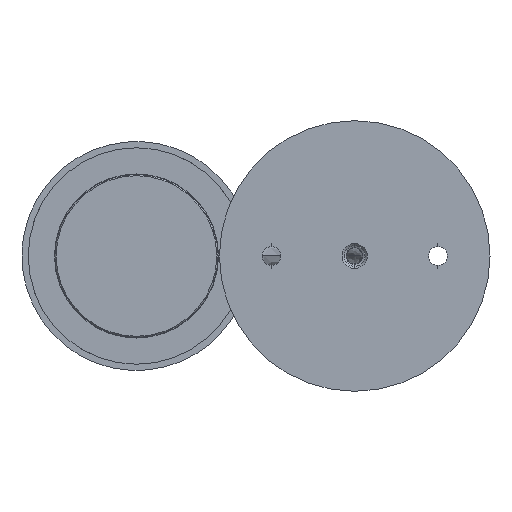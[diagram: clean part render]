
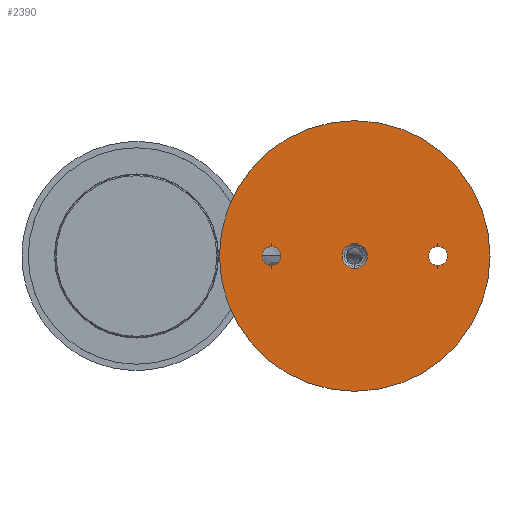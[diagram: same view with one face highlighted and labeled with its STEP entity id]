
A CAD part, front view. The second image highlights one B-rep face of the part: STEP entity #2390.
In plain terms, the highlighted planar face has unit normal (0, -1, 0).
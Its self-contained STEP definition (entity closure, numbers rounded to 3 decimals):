
#3 = VERTEX_POINT ( 'NONE', #6808 ) ;
#86 = CIRCLE ( 'NONE', #753, 3. ) ;
#89 = AXIS2_PLACEMENT_3D ( 'NONE', #6144, #1374, #397 ) ;
#180 = VERTEX_POINT ( 'NONE', #436 ) ;
#248 = DIRECTION ( 'NONE',  ( 0., 1., 0. ) ) ;
#349 = CIRCLE ( 'NONE', #5340, 32.5 ) ;
#370 = CARTESIAN_POINT ( 'NONE',  ( 0., 0., 0. ) ) ;
#378 = AXIS2_PLACEMENT_3D ( 'NONE', #2372, #248, #6077 ) ;
#389 = DIRECTION ( 'NONE',  ( 0., -1., 0. ) ) ;
#397 = DIRECTION ( 'NONE',  ( 0., 0., 1. ) ) ;
#436 = CARTESIAN_POINT ( 'NONE',  ( 0., 0., -32.5 ) ) ;
#490 = ORIENTED_EDGE ( 'NONE', *, *, #4693, .T. ) ;
#525 = CARTESIAN_POINT ( 'NONE',  ( -20., 0., 2.25 ) ) ;
#529 = CARTESIAN_POINT ( 'NONE',  ( 0., 0., 0. ) ) ;
#716 = EDGE_CURVE ( 'NONE', #5609, #5519, #2488, .T. ) ;
#753 = AXIS2_PLACEMENT_3D ( 'NONE', #2501, #5689, #1942 ) ;
#780 = VERTEX_POINT ( 'NONE', #1186 ) ;
#785 = DIRECTION ( 'NONE',  ( 0., 1., 0. ) ) ;
#803 = CARTESIAN_POINT ( 'NONE',  ( -20., 0., 0. ) ) ;
#1186 = CARTESIAN_POINT ( 'NONE',  ( 0., 0., 32.5 ) ) ;
#1265 = ORIENTED_EDGE ( 'NONE', *, *, #5481, .T. ) ;
#1319 = CARTESIAN_POINT ( 'NONE',  ( -20., 0., -2.25 ) ) ;
#1352 = VERTEX_POINT ( 'NONE', #3204 ) ;
#1374 = DIRECTION ( 'NONE',  ( 0., 1., 0. ) ) ;
#1520 = CIRCLE ( 'NONE', #2470, 2.25 ) ;
#1859 = FACE_BOUND ( 'NONE', #5093, .T. ) ;
#1891 = EDGE_CURVE ( 'NONE', #3333, #2664, #6906, .T. ) ;
#1942 = DIRECTION ( 'NONE',  ( 0., 0., -1. ) ) ;
#2007 = DIRECTION ( 'NONE',  ( 0., 0., -1. ) ) ;
#2117 = EDGE_CURVE ( 'NONE', #5519, #5609, #86, .T. ) ;
#2235 = AXIS2_PLACEMENT_3D ( 'NONE', #6492, #4386, #4957 ) ;
#2272 = FACE_BOUND ( 'NONE', #4347, .T. ) ;
#2372 = CARTESIAN_POINT ( 'NONE',  ( -20., 0., 0. ) ) ;
#2390 = ADVANCED_FACE ( 'NONE', ( #1859, #2597, #2272, #4106 ), #6197, .T. ) ;
#2422 = EDGE_LOOP ( 'NONE', ( #490, #6752 ) ) ;
#2459 = EDGE_CURVE ( 'NONE', #2664, #3333, #4675, .T. ) ;
#2470 = AXIS2_PLACEMENT_3D ( 'NONE', #5732, #6783, #6760 ) ;
#2488 = CIRCLE ( 'NONE', #2235, 3. ) ;
#2493 = ORIENTED_EDGE ( 'NONE', *, *, #2117, .T. ) ;
#2501 = CARTESIAN_POINT ( 'NONE',  ( 0., 0., 0. ) ) ;
#2597 = FACE_BOUND ( 'NONE', #6336, .T. ) ;
#2664 = VERTEX_POINT ( 'NONE', #1319 ) ;
#3067 = CARTESIAN_POINT ( 'NONE',  ( 0., 0., -3. ) ) ;
#3204 = CARTESIAN_POINT ( 'NONE',  ( 20., 0., -2.25 ) ) ;
#3256 = AXIS2_PLACEMENT_3D ( 'NONE', #803, #785, #5572 ) ;
#3333 = VERTEX_POINT ( 'NONE', #525 ) ;
#3593 = ORIENTED_EDGE ( 'NONE', *, *, #2459, .T. ) ;
#3962 = DIRECTION ( 'NONE',  ( 0., 0., -1. ) ) ;
#4106 = FACE_OUTER_BOUND ( 'NONE', #2422, .T. ) ;
#4347 = EDGE_LOOP ( 'NONE', ( #4514, #1265 ) ) ;
#4386 = DIRECTION ( 'NONE',  ( 0., 1., 0. ) ) ;
#4514 = ORIENTED_EDGE ( 'NONE', *, *, #4583, .T. ) ;
#4583 = EDGE_CURVE ( 'NONE', #3, #1352, #4591, .T. ) ;
#4591 = CIRCLE ( 'NONE', #89, 2.25 ) ;
#4675 = CIRCLE ( 'NONE', #378, 2.25 ) ;
#4693 = EDGE_CURVE ( 'NONE', #180, #780, #349, .T. ) ;
#4785 = CIRCLE ( 'NONE', #6266, 32.5 ) ;
#4957 = DIRECTION ( 'NONE',  ( 0., 0., -1. ) ) ;
#5093 = EDGE_LOOP ( 'NONE', ( #6907, #2493 ) ) ;
#5101 = EDGE_CURVE ( 'NONE', #780, #180, #4785, .T. ) ;
#5340 = AXIS2_PLACEMENT_3D ( 'NONE', #529, #6892, #6280 ) ;
#5481 = EDGE_CURVE ( 'NONE', #1352, #3, #1520, .T. ) ;
#5485 = DIRECTION ( 'NONE',  ( 0., -1., 0. ) ) ;
#5519 = VERTEX_POINT ( 'NONE', #6805 ) ;
#5572 = DIRECTION ( 'NONE',  ( 0., 0., 1. ) ) ;
#5609 = VERTEX_POINT ( 'NONE', #3067 ) ;
#5689 = DIRECTION ( 'NONE',  ( 0., 1., 0. ) ) ;
#5732 = CARTESIAN_POINT ( 'NONE',  ( 20., 0., 0. ) ) ;
#6007 = ORIENTED_EDGE ( 'NONE', *, *, #1891, .T. ) ;
#6040 = CARTESIAN_POINT ( 'NONE',  ( 0., 0., 0. ) ) ;
#6077 = DIRECTION ( 'NONE',  ( 0., 0., 1. ) ) ;
#6099 = AXIS2_PLACEMENT_3D ( 'NONE', #370, #389, #2007 ) ;
#6144 = CARTESIAN_POINT ( 'NONE',  ( 20., 0., 0. ) ) ;
#6197 = PLANE ( 'NONE',  #6099 ) ;
#6266 = AXIS2_PLACEMENT_3D ( 'NONE', #6040, #5485, #3962 ) ;
#6280 = DIRECTION ( 'NONE',  ( 0., 0., -1. ) ) ;
#6336 = EDGE_LOOP ( 'NONE', ( #6007, #3593 ) ) ;
#6492 = CARTESIAN_POINT ( 'NONE',  ( 0., 0., 0. ) ) ;
#6752 = ORIENTED_EDGE ( 'NONE', *, *, #5101, .T. ) ;
#6760 = DIRECTION ( 'NONE',  ( 0., 0., 1. ) ) ;
#6783 = DIRECTION ( 'NONE',  ( 0., 1., 0. ) ) ;
#6805 = CARTESIAN_POINT ( 'NONE',  ( 0., 0., 3. ) ) ;
#6808 = CARTESIAN_POINT ( 'NONE',  ( 20., 0., 2.25 ) ) ;
#6892 = DIRECTION ( 'NONE',  ( 0., -1., 0. ) ) ;
#6906 = CIRCLE ( 'NONE', #3256, 2.25 ) ;
#6907 = ORIENTED_EDGE ( 'NONE', *, *, #716, .T. ) ;
